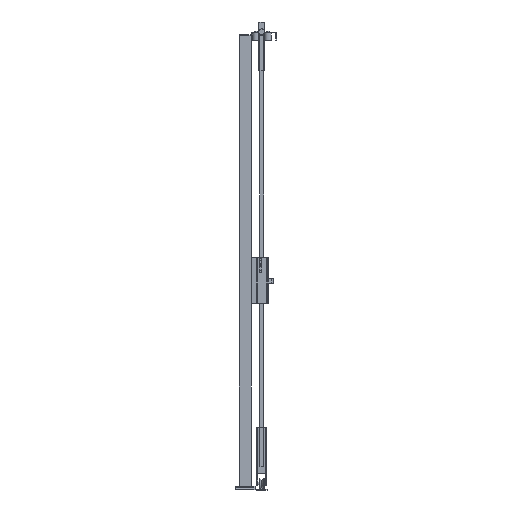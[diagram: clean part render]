
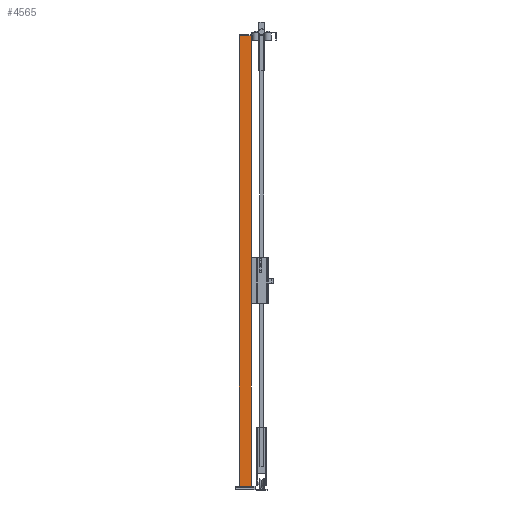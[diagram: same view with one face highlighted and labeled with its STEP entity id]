
A CAD part, left-side view. The second image highlights one B-rep face of the part: STEP entity #4565.
In plain terms, the highlighted planar face has unit normal (-1, 0, 0) as drawn and (0, 1, 0) by its records, which use the part's own axes.
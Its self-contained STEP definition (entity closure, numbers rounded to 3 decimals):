
#498=FACE_OUTER_BOUND('',#833,.T.);
#833=EDGE_LOOP('',(#2846,#2847,#2848,#2849));
#1209=VERTEX_POINT('',#9732);
#1210=VERTEX_POINT('',#9734);
#1212=VERTEX_POINT('',#9740);
#1215=VERTEX_POINT('',#9745);
#1859=EDGE_CURVE('',#1209,#1210,#5394,.T.);
#1865=EDGE_CURVE('',#1215,#1212,#5400,.T.);
#1868=EDGE_CURVE('',#1210,#1215,#5403,.T.);
#1869=EDGE_CURVE('',#1209,#1212,#5404,.T.);
#2846=ORIENTED_EDGE('',*,*,#1869,.T.);
#2847=ORIENTED_EDGE('',*,*,#1865,.F.);
#2848=ORIENTED_EDGE('',*,*,#1868,.F.);
#2849=ORIENTED_EDGE('',*,*,#1859,.F.);
#4276=PLANE('',#6882);
#4565=ADVANCED_FACE('',(#498),#4276,.F.);
#5394=LINE('',#9735,#6199);
#5400=LINE('',#9747,#6205);
#5403=LINE('',#9752,#6208);
#5404=LINE('',#9754,#6209);
#6199=VECTOR('',#7657,1.);
#6205=VECTOR('',#7665,1.);
#6208=VECTOR('',#7672,1.);
#6209=VECTOR('',#7675,1.);
#6882=AXIS2_PLACEMENT_3D('',#9753,#7673,#7674);
#7657=DIRECTION('',(-1.,0.,0.));
#7665=DIRECTION('',(1.,0.,0.));
#7672=DIRECTION('',(0.,0.,-1.));
#7673=DIRECTION('center_axis',(0.,-1.,0.));
#7674=DIRECTION('ref_axis',(0.,0.,-1.));
#7675=DIRECTION('',(0.,0.,-1.));
#9732=CARTESIAN_POINT('',(30.,30.,2320.));
#9734=CARTESIAN_POINT('',(-30.,30.,2320.));
#9735=CARTESIAN_POINT('',(0.,30.,2320.));
#9740=CARTESIAN_POINT('',(30.,30.,20.));
#9745=CARTESIAN_POINT('',(-30.,30.,20.));
#9747=CARTESIAN_POINT('',(0.,30.,20.));
#9752=CARTESIAN_POINT('',(-30.,30.,1170.));
#9753=CARTESIAN_POINT('Origin',(0.,30.,
1170.));
#9754=CARTESIAN_POINT('',(30.,30.,1170.));
